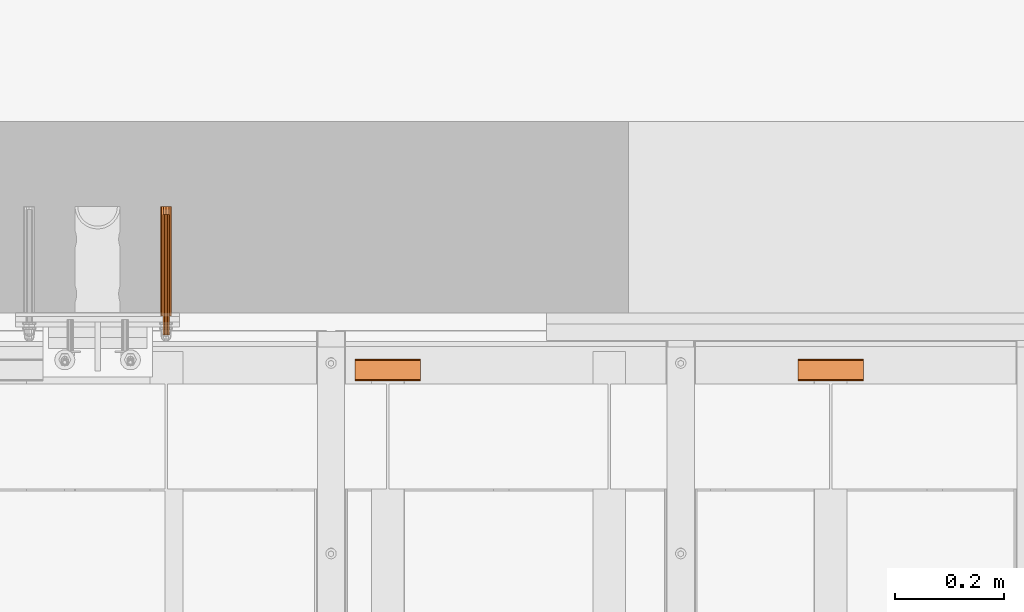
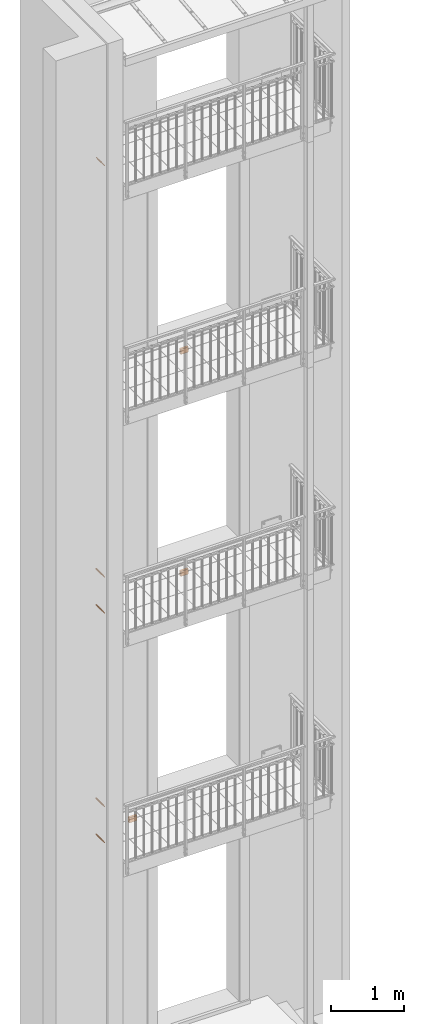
# One storey, part 96 of 162: 12 proxies.
"""IFC2X3 building model written with IfcOpenShell, lengths in millimetres."""

from ifc_helpers import new_model, entity, si_unit, converted_unit, origin_with_axes, place, context, project, spatial, faceted_brep, material, element, save


model = new_model("IFC2X3")

# Units and contexts
model_context = context("Model", 3, precision=1e-09, world=origin_with_axes())
ifc_project = project(units=[si_unit("LENGTHUNIT", "METRE", prefix="MILLI"), si_unit("AREAUNIT", "SQUARE_METRE"), si_unit("VOLUMEUNIT", "CUBIC_METRE"), converted_unit("PLANEANGLEUNIT", "DEGREE", entity("IfcPlaneAngleMeasure", 0.01745329), si_unit("PLANEANGLEUNIT", "RADIAN"), dimensions=[0, 0, 0, 0, 0, 0, 0])], contexts=[model_context])

# Site, building, storey
site_placement = place(None, origin_with_axes())
site = spatial("IfcSite", under=ifc_project, at=site_placement, Name="Hermannstra?e 1a, 60318 Frankfurt", CompositionType="ELEMENT")
building_placement = place(site_placement, origin_with_axes())
building = spatial("IfcBuilding", under=site, at=building_placement, Name="Struktur 1", CompositionType="ELEMENT")
storey_placement = place(building_placement, origin_with_axes())
storey = spatial("IfcBuildingStorey", under=building, at=storey_placement, Name="Default Storey", CompositionType="ELEMENT", Elevation=0.0)

# Proxies
ifc_material_1 = material(Name="Alu")
proxy_1_placement = place(None, origin_with_axes())
element("IfcBuildingElementProxy", 1, at=proxy_1_placement, inside=storey, material=ifc_material_1, ObjectType="-", context=model_context, shape_type="Brep", body=[
    faceted_brep([(4202.55936482, 2612.413221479, 7558.0), (4202.55936482, 2614.609373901, 7555.803847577), (4202.55936482, 2617.609373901, 7555.0), (4202.55936482, 2645.609373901, 7555.0), (4202.55936482, 2648.609373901, 7555.803847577), (4202.55936482, 2650.805526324, 7558.0), (4202.55936482, 2651.609373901, 7561.0), (4202.55936482, 2651.609373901, 7639.0), (4202.55936482, 2650.805526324, 7642.0), (4202.55936482, 2648.609373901, 7644.196152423), (4202.55936482, 2645.609373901, 7645.0), (4202.55936482, 2617.609373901, 7645.0), (4202.55936482, 2614.609373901, 7644.196152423), (4202.55936482, 2612.413221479, 7642.0), (4202.55936482, 2611.609373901, 7639.0), (4202.55936482, 2611.609373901, 7561.0), (4202.55936482, 2614.609373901, 7561.0), (4202.55936482, 2614.609373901, 7639.0), (4202.55936482, 2615.01129769, 7640.5), (4202.55936482, 2616.109373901, 7641.598076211), (4202.55936482, 2617.609373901, 7642.0), (4202.55936482, 2645.609373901, 7642.0), (4202.55936482, 2647.109373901, 7641.598076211), (4202.55936482, 2648.207450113, 7640.5), (4202.55936482, 2648.609373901, 7639.0), (4202.55936482, 2648.609373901, 7561.0), (4202.55936482, 2648.207450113, 7559.5), (4202.55936482, 2647.109373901, 7558.401923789), (4202.55936482, 2645.609373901, 7558.0), (4202.55936482, 2617.609373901, 7558.0), (4202.55936482, 2616.109373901, 7558.401923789), (4202.55936482, 2615.01129769, 7559.5), (4082.55936482, 2614.609373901, 7561.0), (4082.55936482, 2615.01129769, 7559.5), (4082.55936482, 2611.609373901, 7561.0), (4082.55936482, 2612.413221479, 7558.0), (4082.55936482, 2611.609373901, 7639.0), (4082.55936482, 2612.413221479, 7642.0), (4082.55936482, 2614.609373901, 7644.196152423), (4082.55936482, 2617.609373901, 7645.0), (4082.55936482, 2645.609373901, 7645.0), (4082.55936482, 2648.609373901, 7644.196152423), (4082.55936482, 2650.805526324, 7642.0), (4082.55936482, 2651.609373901, 7639.0), (4082.55936482, 2651.609373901, 7561.0), (4082.55936482, 2650.805526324, 7558.0), (4082.55936482, 2648.609373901, 7555.803847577), (4082.55936482, 2645.609373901, 7555.0), (4082.55936482, 2617.609373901, 7555.0), (4082.55936482, 2614.609373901, 7555.803847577), (4082.55936482, 2614.609373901, 7639.0), (4082.55936482, 2616.109373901, 7558.401923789), (4082.55936482, 2617.609373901, 7558.0), (4082.55936482, 2645.609373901, 7558.0), (4082.55936482, 2647.109373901, 7558.401923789), (4082.55936482, 2648.207450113, 7559.5), (4082.55936482, 2648.609373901, 7561.0), (4082.55936482, 2648.609373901, 7639.0), (4082.55936482, 2648.207450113, 7640.5), (4082.55936482, 2647.109373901, 7641.598076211), (4082.55936482, 2645.609373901, 7642.0), (4082.55936482, 2617.609373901, 7642.0), (4082.55936482, 2616.109373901, 7641.598076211), (4082.55936482, 2615.01129769, 7640.5)], [[[0, 1, 2, 3, 4, 5, 6, 7, 8, 9, 10, 11, 12, 13, 14, 15], [16, 17, 18, 19, 20, 21, 22, 23, 24, 25, 26, 27, 28, 29, 30, 31]], [[32, 16, 31, 33]], [[15, 34, 35, 0]], [[36, 37, 38, 39, 40, 41, 42, 43, 44, 45, 46, 47, 48, 49, 35, 34], [50, 32, 33, 51, 52, 53, 54, 55, 56, 57, 58, 59, 60, 61, 62, 63]], [[17, 16, 32, 50]], [[36, 34, 15, 14]], [[36, 14, 13, 37]], [[33, 31, 30, 51]], [[0, 35, 49, 1]], [[17, 50, 63, 18]], [[37, 13, 12, 38]], [[51, 30, 29, 52]], [[1, 49, 48, 2]], [[18, 63, 62, 19]], [[38, 12, 11, 39]], [[53, 52, 29, 28]], [[3, 2, 48, 47]], [[19, 62, 61, 20]], [[40, 39, 11, 10]], [[21, 20, 61, 60]], [[53, 28, 27, 54]], [[3, 47, 46, 4]], [[40, 10, 9, 41]], [[21, 60, 59, 22]], [[54, 27, 26, 55]], [[4, 46, 45, 5]], [[44, 6, 5, 45]], [[41, 9, 8, 42]], [[22, 59, 58, 23]], [[55, 26, 25, 56]], [[7, 6, 44, 43]], [[57, 24, 23, 58]], [[25, 24, 57, 56]], [[42, 8, 7, 43]]]),
])
proxy_2_placement = place(None, origin_with_axes())
element("IfcBuildingElementProxy", 2, at=proxy_2_placement, inside=storey, material=ifc_material_1, ObjectType="-", context=model_context, shape_type="Brep", body=[
    faceted_brep([(4202.55936482, 2612.413221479, 11257.999), (4202.55936482, 2614.609373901, 11255.802847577), (4202.55936482, 2617.609373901, 11254.999), (4202.55936482, 2645.609373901, 11254.999), (4202.55936482, 2648.609373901, 11255.802847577), (4202.55936482, 2650.805526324, 11257.999), (4202.55936482, 2651.609373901, 11260.999), (4202.55936482, 2651.609373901, 11338.999), (4202.55936482, 2650.805526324, 11341.999), (4202.55936482, 2648.609373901, 11344.195152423), (4202.55936482, 2645.609373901, 11344.999), (4202.55936482, 2617.609373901, 11344.999), (4202.55936482, 2614.609373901, 11344.195152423), (4202.55936482, 2612.413221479, 11341.999), (4202.55936482, 2611.609373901, 11338.999), (4202.55936482, 2611.609373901, 11260.999), (4202.55936482, 2614.609373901, 11260.999), (4202.55936482, 2614.609373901, 11338.999), (4202.55936482, 2615.01129769, 11340.499), (4202.55936482, 2616.109373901, 11341.597076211), (4202.55936482, 2617.609373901, 11341.999), (4202.55936482, 2645.609373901, 11341.999), (4202.55936482, 2647.109373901, 11341.597076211), (4202.55936482, 2648.207450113, 11340.499), (4202.55936482, 2648.609373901, 11338.999), (4202.55936482, 2648.609373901, 11260.999), (4202.55936482, 2648.207450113, 11259.499), (4202.55936482, 2647.109373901, 11258.400923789), (4202.55936482, 2645.609373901, 11257.999), (4202.55936482, 2617.609373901, 11257.999), (4202.55936482, 2616.109373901, 11258.400923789), (4202.55936482, 2615.01129769, 11259.499), (4082.55936482, 2614.609373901, 11260.999), (4082.55936482, 2615.01129769, 11259.499), (4082.55936482, 2611.609373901, 11260.999), (4082.55936482, 2612.413221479, 11257.999), (4082.55936482, 2611.609373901, 11338.999), (4082.55936482, 2612.413221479, 11341.999), (4082.55936482, 2614.609373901, 11344.195152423), (4082.55936482, 2617.609373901, 11344.999), (4082.55936482, 2645.609373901, 11344.999), (4082.55936482, 2648.609373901, 11344.195152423), (4082.55936482, 2650.805526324, 11341.999), (4082.55936482, 2651.609373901, 11338.999), (4082.55936482, 2651.609373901, 11260.999), (4082.55936482, 2650.805526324, 11257.999), (4082.55936482, 2648.609373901, 11255.802847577), (4082.55936482, 2645.609373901, 11254.999), (4082.55936482, 2617.609373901, 11254.999), (4082.55936482, 2614.609373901, 11255.802847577), (4082.55936482, 2614.609373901, 11338.999), (4082.55936482, 2616.109373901, 11258.400923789), (4082.55936482, 2617.609373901, 11257.999), (4082.55936482, 2645.609373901, 11257.999), (4082.55936482, 2647.109373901, 11258.400923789), (4082.55936482, 2648.207450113, 11259.499), (4082.55936482, 2648.609373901, 11260.999), (4082.55936482, 2648.609373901, 11338.999), (4082.55936482, 2648.207450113, 11340.499), (4082.55936482, 2647.109373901, 11341.597076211), (4082.55936482, 2645.609373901, 11341.999), (4082.55936482, 2617.609373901, 11341.999), (4082.55936482, 2616.109373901, 11341.597076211), (4082.55936482, 2615.01129769, 11340.499)], [[[0, 1, 2, 3, 4, 5, 6, 7, 8, 9, 10, 11, 12, 13, 14, 15], [16, 17, 18, 19, 20, 21, 22, 23, 24, 25, 26, 27, 28, 29, 30, 31]], [[32, 16, 31, 33]], [[15, 34, 35, 0]], [[36, 37, 38, 39, 40, 41, 42, 43, 44, 45, 46, 47, 48, 49, 35, 34], [50, 32, 33, 51, 52, 53, 54, 55, 56, 57, 58, 59, 60, 61, 62, 63]], [[17, 16, 32, 50]], [[36, 34, 15, 14]], [[36, 14, 13, 37]], [[33, 31, 30, 51]], [[0, 35, 49, 1]], [[17, 50, 63, 18]], [[37, 13, 12, 38]], [[51, 30, 29, 52]], [[1, 49, 48, 2]], [[18, 63, 62, 19]], [[38, 12, 11, 39]], [[53, 52, 29, 28]], [[3, 2, 48, 47]], [[19, 62, 61, 20]], [[40, 39, 11, 10]], [[21, 20, 61, 60]], [[53, 28, 27, 54]], [[3, 47, 46, 4]], [[40, 10, 9, 41]], [[21, 60, 59, 22]], [[54, 27, 26, 55]], [[4, 46, 45, 5]], [[44, 6, 5, 45]], [[41, 9, 8, 42]], [[22, 59, 58, 23]], [[55, 26, 25, 56]], [[7, 6, 44, 43]], [[57, 24, 23, 58]], [[25, 24, 57, 56]], [[42, 8, 7, 43]]]),
])
ifc_material_2 = material(Name="A4")
proxy_3_placement = place(None, origin_with_axes())
element("IfcBuildingElementProxy", 3, at=proxy_3_placement, inside=storey, material=ifc_material_2, ObjectType="-", context=model_context, shape_type="Brep", body=[
    faceted_brep([(2928.310071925, 2695.610081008, 14767.999), (2928.310071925, 2915.610081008, 14767.999), (2925.310071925, 2915.610081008, 14767.195152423), (2925.310071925, 2695.610081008, 14767.195152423), (2931.310071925, 2695.610081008, 14767.195152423), (2931.310071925, 2915.610081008, 14767.195152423), (2931.310071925, 2695.610081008, 14756.802847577), (2933.506224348, 2695.610081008, 14758.999), (2934.310071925, 2695.610081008, 14761.999), (2933.506224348, 2695.610081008, 14764.999), (2923.113919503, 2695.610081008, 14764.999), (2922.310071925, 2695.610081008, 14761.999), (2923.113919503, 2695.610081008, 14758.999), (2925.310071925, 2695.610081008, 14756.802847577), (2928.310071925, 2695.610081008, 14755.999), (2925.310071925, 2915.610081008, 14756.802847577), (2923.113919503, 2915.610081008, 14758.999), (2922.310071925, 2915.610081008, 14761.999), (2923.113919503, 2915.610081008, 14764.999), (2933.506224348, 2915.610081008, 14764.999), (2934.310071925, 2915.610081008, 14761.999), (2933.506224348, 2915.610081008, 14758.999), (2931.310071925, 2915.610081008, 14756.802847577), (2928.310071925, 2915.610081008, 14755.999)], [[[0, 1, 2, 3]], [[1, 0, 4, 5]], [[6, 7, 8, 9, 4, 0, 3, 10, 11, 12, 13, 14]], [[15, 16, 17, 18, 2, 1, 5, 19, 20, 21, 22, 23]], [[3, 2, 18, 10]], [[5, 4, 9, 19]], [[17, 11, 10, 18]], [[16, 12, 11, 17]], [[19, 9, 8, 20]], [[13, 15, 23, 14]], [[12, 16, 15, 13]], [[14, 23, 22, 6]], [[20, 8, 7, 21]], [[6, 22, 21, 7]]]),
])
proxy_4_placement = place(None, origin_with_axes())
element("IfcBuildingElementProxy", 4, at=proxy_4_placement, inside=storey, material=ifc_material_2, ObjectType="-", context=model_context, shape_type="Brep", body=[
    faceted_brep([(2928.308657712, 2915.608666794, 7899.0), (2928.308657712, 2695.608666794, 7899.0), (2925.308657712, 2695.608666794, 7899.803847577), (2925.308657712, 2915.608666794, 7899.803847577), (2931.308657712, 2915.608666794, 7899.803847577), (2931.308657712, 2695.608666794, 7899.803847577), (2933.504810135, 2695.608666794, 7908.0), (2931.308657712, 2695.608666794, 7910.196152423), (2928.308657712, 2695.608666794, 7911.0), (2925.308657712, 2695.608666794, 7910.196152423), (2923.112505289, 2695.608666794, 7908.0), (2922.308657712, 2695.608666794, 7905.0), (2923.112505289, 2695.608666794, 7902.0), (2933.504810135, 2695.608666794, 7902.0), (2934.308657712, 2695.608666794, 7905.0), (2923.112505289, 2915.608666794, 7908.0), (2925.308657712, 2915.608666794, 7910.196152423), (2928.308657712, 2915.608666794, 7911.0), (2931.308657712, 2915.608666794, 7910.196152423), (2933.504810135, 2915.608666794, 7908.0), (2934.308657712, 2915.608666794, 7905.0), (2933.504810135, 2915.608666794, 7902.0), (2923.112505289, 2915.608666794, 7902.0), (2922.308657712, 2915.608666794, 7905.0)], [[[0, 1, 2, 3]], [[1, 0, 4, 5]], [[6, 7, 8, 9, 10, 11, 12, 2, 1, 5, 13, 14]], [[15, 16, 17, 18, 19, 20, 21, 4, 0, 3, 22, 23]], [[3, 2, 12, 22]], [[5, 4, 21, 13]], [[11, 23, 22, 12]], [[10, 15, 23, 11]], [[13, 21, 20, 14]], [[16, 9, 8, 17]], [[15, 10, 9, 16]], [[17, 8, 7, 18]], [[14, 20, 19, 6]], [[18, 7, 6, 19]]]),
])
ifc_material_3 = material(Name="Kunststoff")
proxy_5_placement = place(None, origin_with_axes())
element("IfcBuildingElementProxy", 5, at=proxy_5_placement, inside=storey, material=ifc_material_3, ObjectType="-", context=model_context, shape_type="Brep", body=[
    faceted_brep([(2919.648403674, 2930.608666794, 7910.0), (2923.308657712, 2930.608666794, 7913.660254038), (2928.308657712, 2930.608666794, 7915.0), (2933.308657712, 2930.608666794, 7913.660254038), (2936.96891175, 2930.608666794, 7910.0), (2938.308657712, 2930.608666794, 7905.0), (2936.96891175, 2930.608666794, 7900.0), (2933.308657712, 2930.608666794, 7896.339745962), (2928.308657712, 2930.608666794, 7895.0), (2923.308657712, 2930.608666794, 7896.339745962), (2919.648403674, 2930.608666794, 7900.0), (2918.308657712, 2930.608666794, 7905.0), (2928.308657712, 2730.608666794, 7895.0), (2923.308657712, 2730.608666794, 7896.339745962), (2933.308657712, 2730.608666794, 7896.339745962), (2936.96891175, 2730.608666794, 7900.0), (2936.96891175, 2730.608666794, 7910.0), (2933.308657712, 2730.608666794, 7913.660254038), (2938.308657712, 2730.608666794, 7905.0), (2928.308657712, 2730.608666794, 7915.0), (2923.308657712, 2730.608666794, 7913.660254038), (2919.648403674, 2730.608666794, 7910.0), (2918.308657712, 2730.608666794, 7905.0), (2919.648403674, 2730.608666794, 7900.0), (2932.558657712, 2730.608666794, 7912.361215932), (2935.669873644, 2730.608666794, 7909.25), (2936.808657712, 2730.608666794, 7905.0), (2935.669873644, 2730.608666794, 7900.75), (2932.558657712, 2730.608666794, 7897.638784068), (2928.308657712, 2730.608666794, 7896.5), (2924.058657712, 2730.608666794, 7897.638784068), (2920.94744178, 2730.608666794, 7900.75), (2919.808657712, 2730.608666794, 7905.0), (2920.94744178, 2730.608666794, 7909.25), (2924.058657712, 2730.608666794, 7912.361215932), (2928.308657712, 2730.608666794, 7913.5), (2932.558657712, 2928.608666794, 7912.361215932), (2928.308657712, 2928.608666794, 7913.5), (2935.669873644, 2928.608666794, 7909.25), (2928.308657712, 2928.608666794, 7896.5), (2924.058657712, 2928.608666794, 7897.638784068), (2932.558657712, 2928.608666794, 7897.638784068), (2920.94744178, 2928.608666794, 7900.75), (2935.669873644, 2928.608666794, 7900.75), (2936.808657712, 2928.608666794, 7905.0), (2924.058657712, 2928.608666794, 7912.361215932), (2920.94744178, 2928.608666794, 7909.25), (2919.808657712, 2928.608666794, 7905.0)], [[[0, 1, 2, 3, 4, 5, 6, 7, 8, 9, 10, 11]], [[8, 12, 13, 9]], [[7, 14, 12, 8]], [[6, 15, 14, 7]], [[16, 4, 3, 17]], [[5, 18, 15, 6]], [[17, 3, 2, 19]], [[18, 16, 17, 19, 20, 21, 22, 23, 13, 12, 14, 15], [24, 25, 26, 27, 28, 29, 30, 31, 32, 33, 34, 35]], [[18, 5, 4, 16]], [[9, 13, 23, 10]], [[19, 2, 1, 20]], [[36, 24, 35, 37]], [[24, 36, 38, 25]], [[29, 39, 40, 30]], [[39, 29, 28, 41]], [[42, 40, 39, 41, 43, 44, 38, 36, 37, 45, 46, 47]], [[10, 23, 22, 11]], [[20, 1, 0, 21]], [[37, 35, 34, 45]], [[27, 43, 41, 28]], [[26, 44, 43, 27]], [[25, 38, 44, 26]], [[11, 22, 21, 0]], [[30, 40, 42, 31]], [[45, 34, 33, 46]], [[31, 42, 47, 32]], [[46, 33, 32, 47]]]),
])
proxy_6_placement = place(None, origin_with_axes())
element("IfcBuildingElementProxy", 6, at=proxy_6_placement, inside=storey, material=ifc_material_3, ObjectType="-", context=model_context, shape_type="Brep", body=[
    faceted_brep([(2923.308657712, 2930.608666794, 7296.339745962), (2919.648403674, 2930.608666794, 7300.0), (2918.308657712, 2930.608666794, 7305.0), (2919.648403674, 2930.608666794, 7310.0), (2923.308657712, 2930.608666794, 7313.660254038), (2928.308657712, 2930.608666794, 7315.0), (2933.308657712, 2930.608666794, 7313.660254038), (2936.96891175, 2930.608666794, 7310.0), (2938.308657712, 2930.608666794, 7305.0), (2936.96891175, 2930.608666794, 7300.0), (2933.308657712, 2930.608666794, 7296.339745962), (2928.308657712, 2930.608666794, 7295.0), (2928.308657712, 2730.608666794, 7315.0), (2923.308657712, 2730.608666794, 7313.660254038), (2933.308657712, 2730.608666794, 7313.660254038), (2936.96891175, 2730.608666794, 7310.0), (2936.96891175, 2730.608666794, 7300.0), (2933.308657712, 2730.608666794, 7296.339745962), (2938.308657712, 2730.608666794, 7305.0), (2928.308657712, 2730.608666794, 7295.0), (2919.648403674, 2730.608666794, 7310.0), (2918.308657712, 2730.608666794, 7305.0), (2919.648403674, 2730.608666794, 7300.0), (2923.308657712, 2730.608666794, 7296.339745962), (2932.558657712, 2730.608666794, 7297.638784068), (2932.558657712, 2928.608666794, 7297.638784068), (2928.308657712, 2928.608666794, 7296.5), (2928.308657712, 2730.608666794, 7296.5), (2935.669873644, 2730.608666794, 7300.75), (2935.669873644, 2928.608666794, 7300.75), (2928.308657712, 2928.608666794, 7313.5), (2928.308657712, 2730.608666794, 7313.5), (2924.058657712, 2730.608666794, 7312.361215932), (2924.058657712, 2928.608666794, 7312.361215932), (2932.558657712, 2928.608666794, 7312.361215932), (2932.558657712, 2730.608666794, 7312.361215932), (2920.94744178, 2928.608666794, 7309.25), (2919.808657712, 2928.608666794, 7305.0), (2920.94744178, 2928.608666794, 7300.75), (2924.058657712, 2928.608666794, 7297.638784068), (2936.808657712, 2928.608666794, 7305.0), (2935.669873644, 2928.608666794, 7309.25), (2924.058657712, 2730.608666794, 7297.638784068), (2935.669873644, 2730.608666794, 7309.25), (2936.808657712, 2730.608666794, 7305.0), (2920.94744178, 2730.608666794, 7309.25), (2920.94744178, 2730.608666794, 7300.75), (2919.808657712, 2730.608666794, 7305.0)], [[[0, 1, 2, 3, 4, 5, 6, 7, 8, 9, 10, 11]], [[12, 5, 4, 13]], [[14, 6, 5, 12]], [[15, 7, 6, 14]], [[9, 16, 17, 10]], [[18, 8, 7, 15]], [[10, 17, 19, 11]], [[16, 18, 15, 14, 12, 13, 20, 21, 22, 23, 19, 17]], [[8, 18, 16, 9]], [[13, 4, 3, 20]], [[11, 19, 23, 0]], [[24, 25, 26, 27]], [[25, 24, 28, 29]], [[30, 31, 32, 33]], [[31, 30, 34, 35]], [[33, 36, 37, 38, 39, 26, 25, 29, 40, 41, 34, 30]], [[20, 3, 2, 21]], [[0, 23, 22, 1]], [[27, 26, 39, 42]], [[41, 43, 35, 34]], [[40, 44, 43, 41]], [[29, 28, 44, 40]], [[21, 2, 1, 22]], [[33, 32, 45, 36]], [[42, 39, 38, 46]], [[36, 45, 47, 37]], [[46, 38, 37, 47]]]),
])
proxy_7_placement = place(None, origin_with_axes())
element("IfcBuildingElementProxy", 7, at=proxy_7_placement, inside=storey, material=ifc_material_2, ObjectType="-", context=model_context, shape_type="Brep", body=[
    faceted_brep([(2928.308657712, 2695.608666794, 7311.0), (2928.308657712, 2915.608666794, 7311.0), (2925.308657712, 2915.608666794, 7310.196152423), (2925.308657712, 2695.608666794, 7310.196152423), (2931.308657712, 2695.608666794, 7310.196152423), (2931.308657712, 2915.608666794, 7310.196152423), (2931.308657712, 2695.608666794, 7299.803847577), (2933.504810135, 2695.608666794, 7302.0), (2934.308657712, 2695.608666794, 7305.0), (2933.504810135, 2695.608666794, 7308.0), (2923.112505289, 2695.608666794, 7308.0), (2922.308657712, 2695.608666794, 7305.0), (2923.112505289, 2695.608666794, 7302.0), (2925.308657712, 2695.608666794, 7299.803847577), (2928.308657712, 2695.608666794, 7299.0), (2925.308657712, 2915.608666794, 7299.803847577), (2923.112505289, 2915.608666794, 7302.0), (2922.308657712, 2915.608666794, 7305.0), (2923.112505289, 2915.608666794, 7308.0), (2933.504810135, 2915.608666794, 7308.0), (2934.308657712, 2915.608666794, 7305.0), (2933.504810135, 2915.608666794, 7302.0), (2931.308657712, 2915.608666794, 7299.803847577), (2928.308657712, 2915.608666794, 7299.0)], [[[0, 1, 2, 3]], [[1, 0, 4, 5]], [[6, 7, 8, 9, 4, 0, 3, 10, 11, 12, 13, 14]], [[15, 16, 17, 18, 2, 1, 5, 19, 20, 21, 22, 23]], [[3, 2, 18, 10]], [[5, 4, 9, 19]], [[17, 11, 10, 18]], [[16, 12, 11, 17]], [[19, 9, 8, 20]], [[13, 15, 23, 14]], [[12, 16, 15, 13]], [[14, 23, 22, 6]], [[20, 8, 7, 21]], [[6, 22, 21, 7]]]),
])
proxy_8_placement = place(None, origin_with_axes())
element("IfcBuildingElementProxy", 8, at=proxy_8_placement, inside=storey, material=ifc_material_2, ObjectType="-", context=model_context, shape_type="Brep", body=[
    faceted_brep([(2928.310071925, 2915.610081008, 4074.0), (2928.310071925, 2695.610081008, 4074.0), (2925.310071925, 2695.610081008, 4074.803847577), (2925.310071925, 2915.610081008, 4074.803847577), (2931.310071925, 2915.610081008, 4074.803847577), (2931.310071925, 2695.610081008, 4074.803847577), (2933.506224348, 2695.610081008, 4083.0), (2931.310071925, 2695.610081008, 4085.196152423), (2928.310071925, 2695.610081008, 4086.0), (2925.310071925, 2695.610081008, 4085.196152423), (2923.113919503, 2695.610081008, 4083.0), (2922.310071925, 2695.610081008, 4080.0), (2923.113919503, 2695.610081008, 4077.0), (2933.506224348, 2695.610081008, 4077.0), (2934.310071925, 2695.610081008, 4080.0), (2923.113919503, 2915.610081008, 4083.0), (2925.310071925, 2915.610081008, 4085.196152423), (2928.310071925, 2915.610081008, 4086.0), (2931.310071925, 2915.610081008, 4085.196152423), (2933.506224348, 2915.610081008, 4083.0), (2934.310071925, 2915.610081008, 4080.0), (2933.506224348, 2915.610081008, 4077.0), (2923.113919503, 2915.610081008, 4077.0), (2922.310071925, 2915.610081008, 4080.0)], [[[0, 1, 2, 3]], [[1, 0, 4, 5]], [[6, 7, 8, 9, 10, 11, 12, 2, 1, 5, 13, 14]], [[15, 16, 17, 18, 19, 20, 21, 4, 0, 3, 22, 23]], [[3, 2, 12, 22]], [[5, 4, 21, 13]], [[11, 23, 22, 12]], [[10, 15, 23, 11]], [[13, 21, 20, 14]], [[16, 9, 8, 17]], [[15, 10, 9, 16]], [[17, 8, 7, 18]], [[14, 20, 19, 6]], [[18, 7, 6, 19]]]),
])
proxy_9_placement = place(None, origin_with_axes())
element("IfcBuildingElementProxy", 9, at=proxy_9_placement, inside=storey, material=ifc_material_3, ObjectType="-", context=model_context, shape_type="Brep", body=[
    faceted_brep([(2919.649817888, 2930.610081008, 4085.0), (2923.310071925, 2930.610081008, 4088.660254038), (2928.310071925, 2930.610081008, 4090.0), (2933.310071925, 2930.610081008, 4088.660254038), (2936.970325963, 2930.610081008, 4085.0), (2938.310071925, 2930.610081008, 4080.0), (2936.970325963, 2930.610081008, 4075.0), (2933.310071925, 2930.610081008, 4071.339745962), (2928.310071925, 2930.610081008, 4070.0), (2923.310071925, 2930.610081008, 4071.339745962), (2919.649817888, 2930.610081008, 4075.0), (2918.310071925, 2930.610081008, 4080.0), (2928.310071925, 2730.610081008, 4070.0), (2923.310071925, 2730.610081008, 4071.339745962), (2933.310071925, 2730.610081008, 4071.339745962), (2936.970325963, 2730.610081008, 4075.0), (2936.970325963, 2730.610081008, 4085.0), (2933.310071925, 2730.610081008, 4088.660254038), (2938.310071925, 2730.610081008, 4080.0), (2928.310071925, 2730.610081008, 4090.0), (2923.310071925, 2730.610081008, 4088.660254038), (2919.649817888, 2730.610081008, 4085.0), (2918.310071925, 2730.610081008, 4080.0), (2919.649817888, 2730.610081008, 4075.0), (2932.560071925, 2730.610081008, 4087.361215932), (2935.671287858, 2730.610081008, 4084.25), (2936.810071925, 2730.610081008, 4080.0), (2935.671287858, 2730.610081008, 4075.75), (2932.560071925, 2730.610081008, 4072.638784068), (2928.310071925, 2730.610081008, 4071.5), (2924.060071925, 2730.610081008, 4072.638784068), (2920.948855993, 2730.610081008, 4075.75), (2919.810071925, 2730.610081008, 4080.0), (2920.948855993, 2730.610081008, 4084.25), (2924.060071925, 2730.610081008, 4087.361215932), (2928.310071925, 2730.610081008, 4088.5), (2932.560071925, 2928.610081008, 4087.361215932), (2928.310071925, 2928.610081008, 4088.5), (2935.671287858, 2928.610081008, 4084.25), (2928.310071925, 2928.610081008, 4071.5), (2924.060071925, 2928.610081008, 4072.638784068), (2932.560071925, 2928.610081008, 4072.638784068), (2920.948855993, 2928.610081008, 4075.75), (2935.671287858, 2928.610081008, 4075.75), (2936.810071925, 2928.610081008, 4080.0), (2924.060071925, 2928.610081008, 4087.361215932), (2920.948855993, 2928.610081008, 4084.25), (2919.810071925, 2928.610081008, 4080.0)], [[[0, 1, 2, 3, 4, 5, 6, 7, 8, 9, 10, 11]], [[8, 12, 13, 9]], [[7, 14, 12, 8]], [[6, 15, 14, 7]], [[16, 4, 3, 17]], [[5, 18, 15, 6]], [[17, 3, 2, 19]], [[18, 16, 17, 19, 20, 21, 22, 23, 13, 12, 14, 15], [24, 25, 26, 27, 28, 29, 30, 31, 32, 33, 34, 35]], [[18, 5, 4, 16]], [[9, 13, 23, 10]], [[19, 2, 1, 20]], [[36, 24, 35, 37]], [[24, 36, 38, 25]], [[29, 39, 40, 30]], [[39, 29, 28, 41]], [[42, 40, 39, 41, 43, 44, 38, 36, 37, 45, 46, 47]], [[10, 23, 22, 11]], [[20, 1, 0, 21]], [[37, 35, 34, 45]], [[27, 43, 41, 28]], [[26, 44, 43, 27]], [[25, 38, 44, 26]], [[11, 22, 21, 0]], [[30, 40, 42, 31]], [[45, 34, 33, 46]], [[31, 42, 47, 32]], [[46, 33, 32, 47]]]),
])
proxy_10_placement = place(None, origin_with_axes())
element("IfcBuildingElementProxy", 10, at=proxy_10_placement, inside=storey, material=ifc_material_3, ObjectType="-", context=model_context, shape_type="Brep", body=[
    faceted_brep([(2923.310071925, 2930.610081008, 3471.339745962), (2919.649817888, 2930.610081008, 3475.0), (2918.310071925, 2930.610081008, 3480.0), (2919.649817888, 2930.610081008, 3485.0), (2923.310071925, 2930.610081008, 3488.660254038), (2928.310071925, 2930.610081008, 3490.0), (2933.310071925, 2930.610081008, 3488.660254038), (2936.970325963, 2930.610081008, 3485.0), (2938.310071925, 2930.610081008, 3480.0), (2936.970325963, 2930.610081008, 3475.0), (2933.310071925, 2930.610081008, 3471.339745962), (2928.310071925, 2930.610081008, 3470.0), (2928.310071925, 2730.610081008, 3490.0), (2923.310071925, 2730.610081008, 3488.660254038), (2933.310071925, 2730.610081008, 3488.660254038), (2936.970325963, 2730.610081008, 3485.0), (2936.970325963, 2730.610081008, 3475.0), (2933.310071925, 2730.610081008, 3471.339745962), (2938.310071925, 2730.610081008, 3480.0), (2928.310071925, 2730.610081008, 3470.0), (2919.649817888, 2730.610081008, 3485.0), (2918.310071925, 2730.610081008, 3480.0), (2919.649817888, 2730.610081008, 3475.0), (2923.310071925, 2730.610081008, 3471.339745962), (2932.560071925, 2730.610081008, 3472.638784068), (2932.560071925, 2928.610081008, 3472.638784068), (2928.310071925, 2928.610081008, 3471.5), (2928.310071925, 2730.610081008, 3471.5), (2935.671287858, 2730.610081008, 3475.75), (2935.671287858, 2928.610081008, 3475.75), (2928.310071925, 2928.610081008, 3488.5), (2928.310071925, 2730.610081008, 3488.5), (2924.060071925, 2730.610081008, 3487.361215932), (2924.060071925, 2928.610081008, 3487.361215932), (2932.560071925, 2928.610081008, 3487.361215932), (2932.560071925, 2730.610081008, 3487.361215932), (2920.948855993, 2928.610081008, 3484.25), (2919.810071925, 2928.610081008, 3480.0), (2920.948855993, 2928.610081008, 3475.75), (2924.060071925, 2928.610081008, 3472.638784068), (2936.810071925, 2928.610081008, 3480.0), (2935.671287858, 2928.610081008, 3484.25), (2924.060071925, 2730.610081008, 3472.638784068), (2935.671287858, 2730.610081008, 3484.25), (2936.810071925, 2730.610081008, 3480.0), (2920.948855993, 2730.610081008, 3484.25), (2920.948855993, 2730.610081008, 3475.75), (2919.810071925, 2730.610081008, 3480.0)], [[[0, 1, 2, 3, 4, 5, 6, 7, 8, 9, 10, 11]], [[12, 5, 4, 13]], [[14, 6, 5, 12]], [[15, 7, 6, 14]], [[9, 16, 17, 10]], [[18, 8, 7, 15]], [[10, 17, 19, 11]], [[16, 18, 15, 14, 12, 13, 20, 21, 22, 23, 19, 17]], [[8, 18, 16, 9]], [[13, 4, 3, 20]], [[11, 19, 23, 0]], [[24, 25, 26, 27]], [[25, 24, 28, 29]], [[30, 31, 32, 33]], [[31, 30, 34, 35]], [[33, 36, 37, 38, 39, 26, 25, 29, 40, 41, 34, 30]], [[20, 3, 2, 21]], [[0, 23, 22, 1]], [[27, 26, 39, 42]], [[41, 43, 35, 34]], [[40, 44, 43, 41]], [[29, 28, 44, 40]], [[21, 2, 1, 22]], [[33, 32, 45, 36]], [[42, 39, 38, 46]], [[36, 45, 47, 37]], [[46, 38, 37, 47]]]),
])
proxy_11_placement = place(None, origin_with_axes())
element("IfcBuildingElementProxy", 11, at=proxy_11_placement, inside=storey, material=ifc_material_2, ObjectType="-", context=model_context, shape_type="Brep", body=[
    faceted_brep([(2928.310071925, 2695.610081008, 3486.0), (2928.310071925, 2915.610081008, 3486.0), (2925.310071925, 2915.610081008, 3485.196152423), (2925.310071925, 2695.610081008, 3485.196152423), (2931.310071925, 2695.610081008, 3485.196152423), (2931.310071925, 2915.610081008, 3485.196152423), (2931.310071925, 2695.610081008, 3474.803847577), (2933.506224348, 2695.610081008, 3477.0), (2934.310071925, 2695.610081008, 3480.0), (2933.506224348, 2695.610081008, 3483.0), (2923.113919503, 2695.610081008, 3483.0), (2922.310071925, 2695.610081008, 3480.0), (2923.113919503, 2695.610081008, 3477.0), (2925.310071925, 2695.610081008, 3474.803847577), (2928.310071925, 2695.610081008, 3474.0), (2925.310071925, 2915.610081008, 3474.803847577), (2923.113919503, 2915.610081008, 3477.0), (2922.310071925, 2915.610081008, 3480.0), (2923.113919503, 2915.610081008, 3483.0), (2933.506224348, 2915.610081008, 3483.0), (2934.310071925, 2915.610081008, 3480.0), (2933.506224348, 2915.610081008, 3477.0), (2931.310071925, 2915.610081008, 3474.803847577), (2928.310071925, 2915.610081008, 3474.0)], [[[0, 1, 2, 3]], [[1, 0, 4, 5]], [[6, 7, 8, 9, 4, 0, 3, 10, 11, 12, 13, 14]], [[15, 16, 17, 18, 2, 1, 5, 19, 20, 21, 22, 23]], [[3, 2, 18, 10]], [[5, 4, 9, 19]], [[17, 11, 10, 18]], [[16, 12, 11, 17]], [[19, 9, 8, 20]], [[13, 15, 23, 14]], [[12, 16, 15, 13]], [[14, 23, 22, 6]], [[20, 8, 7, 21]], [[6, 22, 21, 7]]]),
])
proxy_12_placement = place(None, origin_with_axes())
element("IfcBuildingElementProxy", 12, at=proxy_12_placement, inside=storey, material=ifc_material_1, ObjectType="-", context=model_context, shape_type="Brep", body=[
    faceted_brep([(3393.55936482, 2612.413221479, 3733.0), (3393.55936482, 2614.609373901, 3730.803847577), (3393.55936482, 2617.609373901, 3730.0), (3393.55936482, 2645.609373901, 3730.0), (3393.55936482, 2648.609373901, 3730.803847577), (3393.55936482, 2650.805526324, 3733.0), (3393.55936482, 2651.609373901, 3736.0), (3393.55936482, 2651.609373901, 3814.0), (3393.55936482, 2650.805526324, 3817.0), (3393.55936482, 2648.609373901, 3819.196152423), (3393.55936482, 2645.609373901, 3820.0), (3393.55936482, 2617.609373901, 3820.0), (3393.55936482, 2614.609373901, 3819.196152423), (3393.55936482, 2612.413221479, 3817.0), (3393.55936482, 2611.609373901, 3814.0), (3393.55936482, 2611.609373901, 3736.0), (3393.55936482, 2614.609373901, 3736.0), (3393.55936482, 2614.609373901, 3814.0), (3393.55936482, 2615.01129769, 3815.5), (3393.55936482, 2616.109373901, 3816.598076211), (3393.55936482, 2617.609373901, 3817.0), (3393.55936482, 2645.609373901, 3817.0), (3393.55936482, 2647.109373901, 3816.598076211), (3393.55936482, 2648.207450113, 3815.5), (3393.55936482, 2648.609373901, 3814.0), (3393.55936482, 2648.609373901, 3736.0), (3393.55936482, 2648.207450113, 3734.5), (3393.55936482, 2647.109373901, 3733.401923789), (3393.55936482, 2645.609373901, 3733.0), (3393.55936482, 2617.609373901, 3733.0), (3393.55936482, 2616.109373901, 3733.401923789), (3393.55936482, 2615.01129769, 3734.5), (3273.55936482, 2614.609373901, 3736.0), (3273.55936482, 2615.01129769, 3734.5), (3273.55936482, 2611.609373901, 3736.0), (3273.55936482, 2612.413221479, 3733.0), (3273.55936482, 2611.609373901, 3814.0), (3273.55936482, 2612.413221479, 3817.0), (3273.55936482, 2614.609373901, 3819.196152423), (3273.55936482, 2617.609373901, 3820.0), (3273.55936482, 2645.609373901, 3820.0), (3273.55936482, 2648.609373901, 3819.196152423), (3273.55936482, 2650.805526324, 3817.0), (3273.55936482, 2651.609373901, 3814.0), (3273.55936482, 2651.609373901, 3736.0), (3273.55936482, 2650.805526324, 3733.0), (3273.55936482, 2648.609373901, 3730.803847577), (3273.55936482, 2645.609373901, 3730.0), (3273.55936482, 2617.609373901, 3730.0), (3273.55936482, 2614.609373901, 3730.803847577), (3273.55936482, 2614.609373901, 3814.0), (3273.55936482, 2616.109373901, 3733.401923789), (3273.55936482, 2617.609373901, 3733.0), (3273.55936482, 2645.609373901, 3733.0), (3273.55936482, 2647.109373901, 3733.401923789), (3273.55936482, 2648.207450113, 3734.5), (3273.55936482, 2648.609373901, 3736.0), (3273.55936482, 2648.609373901, 3814.0), (3273.55936482, 2648.207450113, 3815.5), (3273.55936482, 2647.109373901, 3816.598076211), (3273.55936482, 2645.609373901, 3817.0), (3273.55936482, 2617.609373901, 3817.0), (3273.55936482, 2616.109373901, 3816.598076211), (3273.55936482, 2615.01129769, 3815.5)], [[[0, 1, 2, 3, 4, 5, 6, 7, 8, 9, 10, 11, 12, 13, 14, 15], [16, 17, 18, 19, 20, 21, 22, 23, 24, 25, 26, 27, 28, 29, 30, 31]], [[32, 16, 31, 33]], [[15, 34, 35, 0]], [[36, 37, 38, 39, 40, 41, 42, 43, 44, 45, 46, 47, 48, 49, 35, 34], [50, 32, 33, 51, 52, 53, 54, 55, 56, 57, 58, 59, 60, 61, 62, 63]], [[17, 16, 32, 50]], [[36, 34, 15, 14]], [[36, 14, 13, 37]], [[33, 31, 30, 51]], [[0, 35, 49, 1]], [[17, 50, 63, 18]], [[37, 13, 12, 38]], [[51, 30, 29, 52]], [[1, 49, 48, 2]], [[18, 63, 62, 19]], [[38, 12, 11, 39]], [[53, 52, 29, 28]], [[3, 2, 48, 47]], [[19, 62, 61, 20]], [[40, 39, 11, 10]], [[21, 20, 61, 60]], [[53, 28, 27, 54]], [[3, 47, 46, 4]], [[40, 10, 9, 41]], [[21, 60, 59, 22]], [[54, 27, 26, 55]], [[4, 46, 45, 5]], [[44, 6, 5, 45]], [[41, 9, 8, 42]], [[22, 59, 58, 23]], [[55, 26, 25, 56]], [[7, 6, 44, 43]], [[57, 24, 23, 58]], [[25, 24, 57, 56]], [[42, 8, 7, 43]]]),
])

save(model, "model.ifc")
